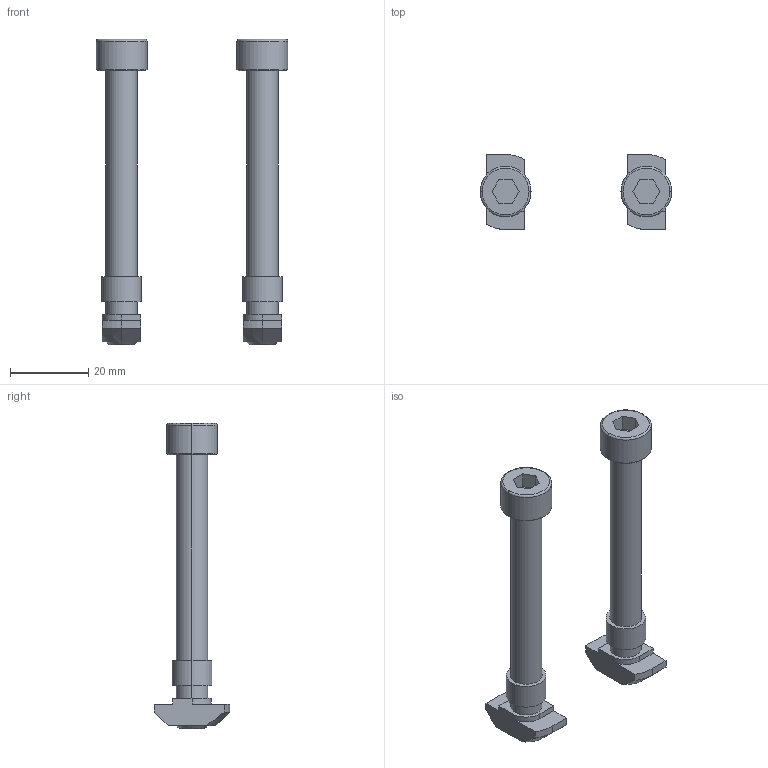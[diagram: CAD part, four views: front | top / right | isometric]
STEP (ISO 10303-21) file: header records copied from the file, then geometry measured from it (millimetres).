
FILE_DESCRIPTION (( 'STEP AP203' ), '1' );
FILE_NAME ('75000023.STEP', '2016-11-21T15:08:46', ( '' ), ( '' ), 'SwSTEP 2.0', 'SolidWorks 2015', '' );
FILE_SCHEMA (( 'CONFIG_CONTROL_DESIGN' ));
Length unit declared in the file: millimetre
Products named in the file (1): 75000023
Bounding box: 49 x 19.2 x 78 mm (x, y, z)
Volume: 10603.1 mm3; surface area: 6448.8 mm2
Topology: 2 solids, 2 shells, 92 faces, 216 edges, 140 vertices
Faces by surface type: plane 48, cylinder 28, cone 12, torus 4
Entity records: 2963 total; most frequent: CARTESIAN_POINT 717, DIRECTION 462, ORIENTED_EDGE 432, EDGE_CURVE 216, AXIS2_PLACEMENT_3D 165, VERTEX_POINT 140, VECTOR 132, LINE 132
